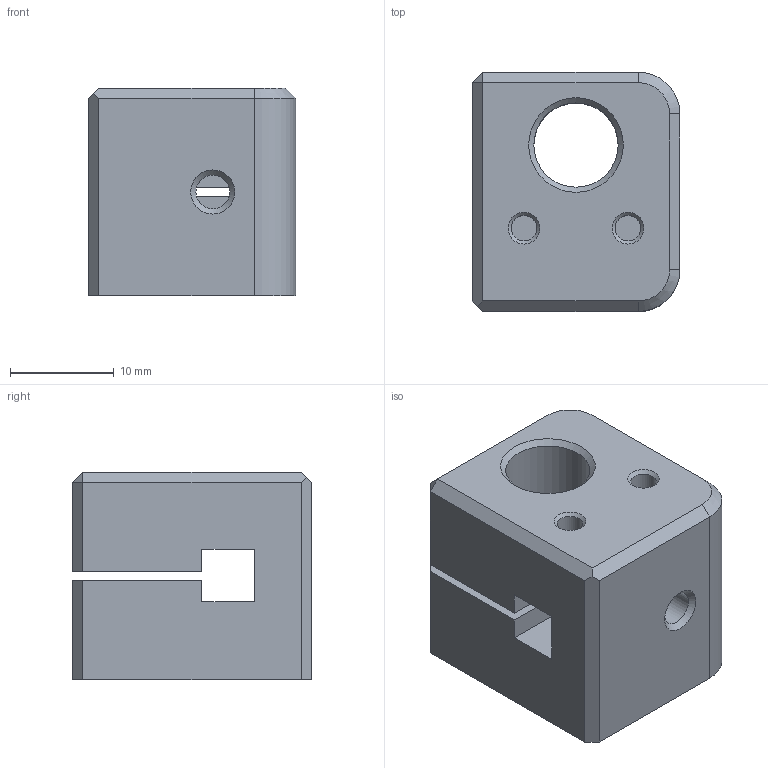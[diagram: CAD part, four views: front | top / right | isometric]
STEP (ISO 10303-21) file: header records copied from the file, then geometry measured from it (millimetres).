
FILE_DESCRIPTION(/* description */ (''),/* implementation_level */ '2;1');
FILE_NAME(/* name */ 'D:\IN 制图\设备\手动剥线机带侧刀4.02\工程图\侧刀夹.stp',/* time_stamp */ '2026-06-23T08:09:09+08:00',/* author */ ('ROG'),/* organization */ (''),/* preprocessor_version */ 'ST-DEVELOPER v19',/* originating_system */ 'Autodesk Inventor 2023',/* authorisation */ '');
FILE_SCHEMA (('AUTOMOTIVE_DESIGN { 1 0 10303 214 3 1 1 }'));
Length unit declared in the file: millimetre
Products named in the file (1): 侧刀夹
Bounding box: 20 x 23 x 20 mm (x, y, z)
Volume: 7186.2 mm3; surface area: 3682.4 mm2
Topology: 1 solids, 1 shells, 36 faces, 94 edges, 60 vertices
Faces by surface type: plane 22, cylinder 8, cone 6
Full cylindrical faces by diameter (mm): 2.459 x2, 3.242 x1, 8.1 x2
Entity records: 1180 total; most frequent: DIRECTION 193, CARTESIAN_POINT 191, ORIENTED_EDGE 188, EDGE_CURVE 94, LINE 69, VECTOR 69, AXIS2_PLACEMENT_3D 62, VERTEX_POINT 60
